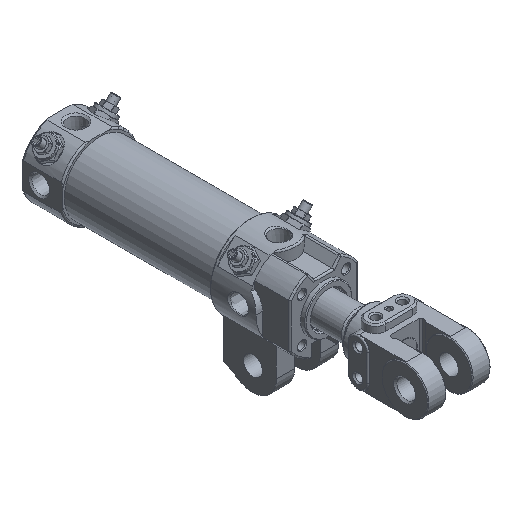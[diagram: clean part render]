
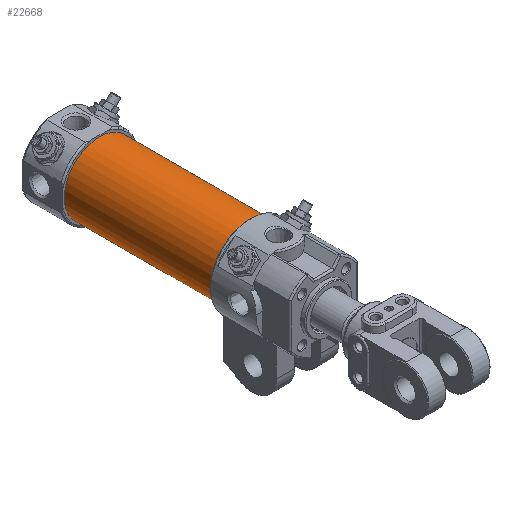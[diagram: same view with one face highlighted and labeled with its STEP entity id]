
A CAD part, isometric view. The second image highlights one B-rep face of the part: STEP entity #22668.
In plain terms, the highlighted cylindrical face has radius 22.5 mm (diameter 45 mm), a full revolution.
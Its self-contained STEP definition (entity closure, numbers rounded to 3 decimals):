
#17347=CARTESIAN_POINT('',(22.5,146.5,0.));
#17348=VERTEX_POINT('',#17347);
#17349=CARTESIAN_POINT('',(0.0,146.5,0.0));
#17350=DIRECTION('',(0.0,-1.0,0.0));
#17351=DIRECTION('',(-1.0,0.0,0.0));
#17352=AXIS2_PLACEMENT_3D('',#17349,#17350,#17351);
#17353=CIRCLE('',#17352,22.5);
#17354=EDGE_CURVE('',#17348,#17348,#17353,.T.);
#22645=CARTESIAN_POINT('',(22.5,50.5,0.));
#22646=VERTEX_POINT('',#22645);
#22647=CARTESIAN_POINT('',(0.0,50.5,0.0));
#22648=DIRECTION('',(0.0,-1.0,0.0));
#22649=DIRECTION('',(-1.0,0.0,0.0));
#22650=AXIS2_PLACEMENT_3D('',#22647,#22648,#22649);
#22651=CIRCLE('',#22650,22.5);
#22652=EDGE_CURVE('',#22646,#22646,#22651,.T.);
#22657=CARTESIAN_POINT('',(0.0,50.5,0.0));
#22658=DIRECTION('',(0.0,1.0,0.0));
#22659=DIRECTION('',(-1.0,0.0,0.0));
#22660=AXIS2_PLACEMENT_3D('',#22657,#22658,#22659);
#22661=CYLINDRICAL_SURFACE('',#22660,22.5);
#22662=ORIENTED_EDGE('',*,*,#17354,.T.);
#22663=EDGE_LOOP('',(#22662));
#22664=FACE_OUTER_BOUND('',#22663,.T.);
#22665=ORIENTED_EDGE('',*,*,#22652,.F.);
#22666=EDGE_LOOP('',(#22665));
#22667=FACE_BOUND('',#22666,.T.);
#22668=ADVANCED_FACE('',(#22664,#22667),#22661,.T.);
